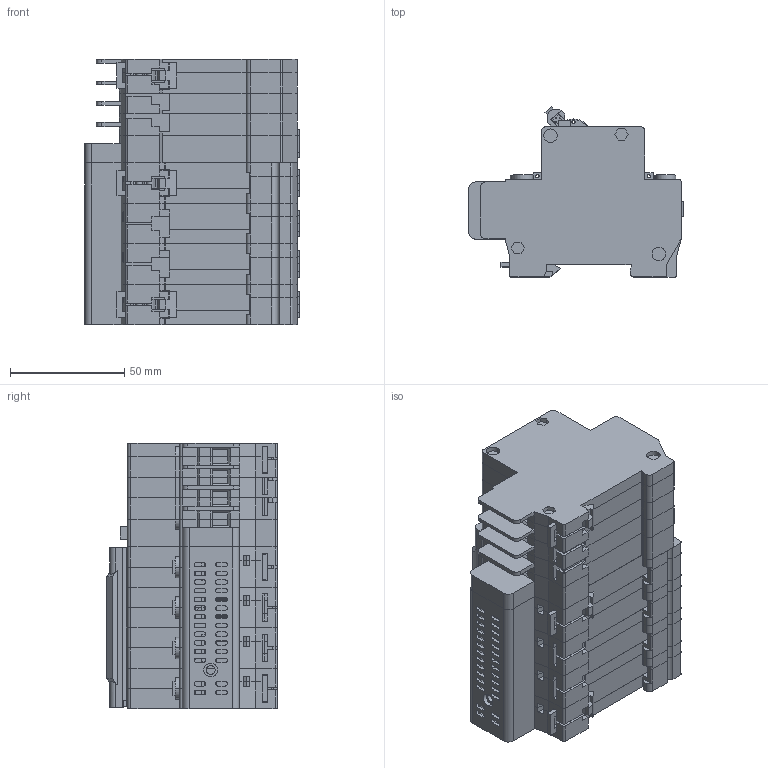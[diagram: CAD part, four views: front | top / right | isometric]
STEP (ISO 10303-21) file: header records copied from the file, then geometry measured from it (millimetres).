
FILE_DESCRIPTION (( 'STEP AP214' ), '1' );
FILE_NAME ('ﾀﾄ14 蒡 32ﾀ.STEP', '2022-11-18T10:25:20', ( '' ), ( '' ), 'SwSTEP 2.0', 'SolidWorks 2018', '' );
FILE_SCHEMA (( 'AUTOMOTIVE_DESIGN' ));
Length unit declared in the file: millimetre
Products named in the file (24): Ëåâàÿ áîêîâèíà  (ÀÄ12-14 Changan) 04.2022; 鎔艜 (斂12) 04.2022; Çàùåëêà (ÂÀ47-29 Changan) 04.2022; Êîëîäêà (ÂÀ47-29) 14.02.2022; 扱闀罻 蠈嚦 斂12 OFA 04.2022; 青汶篪赅 (吕47-29) 14.02.2022; Ñêîáà (ÂÀ47-29 OFA) 04.2022_4 ¯®«îá ; 鎔艜 (臍47-29) 14.02.2022; ÂÀ47-29 1Õ Changan 04.2022_1 ¤«ï 4; 青觌屣赅 (吕47-29 OFA) 04.2022_4 釥; Áîêîâèíà ïðàâàÿ (ÀÄ12-14 Changan) 09.2022_¤® 32€; ﾂﾀ47-29 1ﾕ Changan 04.2022_尚皚･､ｭｨｩ ｯｮｫ髜; 栫謥儰縺 (斂12-14 Changan) 04.2022; Êíîïêà âîçâðàò; ﾂﾀ47-29 1ﾕ Changan 04.2022_｡･ｧ ｧ鬣ｫｪｨ; ﾀﾄ14 蒡 32ﾀ; ﾂﾀ47-29 4ﾕ Changan 04.2022; Áîêîâèíà ëåâàÿ (ÂÀ47-29 Changan) 04.2022; Áîêîâèíà ïðàâàÿ (ÂÀ47-29 Changan) 04.2022; Ðó÷êà (ÂÀ47-29 Changan) 04.2022; Ñåðåäèíà ïåðåä êíîïêîé (ÀÄ12-14 Changan) (9.09.2022); Êðûøêà ïîä ïðîâîäà ÀÄ12-14 Changan 04.2022_4 ¯®«îá ; ﾂ鏆鮏 (ﾂﾀ47-29 OFA) 14.02.2022; ч蜱齁罻 倢昅
Assembly tree (59 placements, depth 4):
  ﾀﾄ14 蒡 32ﾀ
    Ëåâàÿ áîêîâèíà  (ÀÄ12-14 Changan) 04.2022
    Ñåðåäèíà ïåðåä êíîïêîé (ÀÄ12-14 Changan) (9.09.2022)
    Êðûøêà ïîä ïðîâîäà ÀÄ12-14 Changan 04.2022_4 ¯®«îá 
    Áîêîâèíà ïðàâàÿ (ÀÄ12-14 Changan) 09.2022_¤® 32€
    Çàùåëêà (ÂÀ47-29 Changan) 04.2022
    栫謥儰縺 (斂12-14 Changan) 04.2022  x2
    ﾂﾀ47-29 4ﾕ Changan 04.2022
      ÂÀ47-29 1Õ Changan 04.2022_1 ¤«ï 4
        Áîêîâèíà ïðàâàÿ (ÂÀ47-29 Changan) 04.2022
        Áîêîâèíà ëåâàÿ (ÂÀ47-29 Changan) 04.2022
        Çàùåëêà (ÂÀ47-29 Changan) 04.2022
        Ðó÷êà (ÂÀ47-29 Changan) 04.2022
        青觌屣赅 (吕47-29 OFA) 04.2022_4 釥  x4
        青汶篪赅 (吕47-29) 14.02.2022  x2
        鎔艜 (臍47-29) 14.02.2022  x2
        ﾂ鏆鮏 (ﾂﾀ47-29 OFA) 14.02.2022  x2
        Êîëîäêà (ÂÀ47-29) 14.02.2022  x2
      ﾂﾀ47-29 1ﾕ Changan 04.2022_｡･ｧ ｧ鬣ｫｪｨ  x2
        Áîêîâèíà ïðàâàÿ (ÂÀ47-29 Changan) 04.2022
        Áîêîâèíà ëåâàÿ (ÂÀ47-29 Changan) 04.2022
        Ðó÷êà (ÂÀ47-29 Changan) 04.2022
        青汶篪赅 (吕47-29) 14.02.2022
        鎔艜 (臍47-29) 14.02.2022
        ﾂ鏆鮏 (ﾂﾀ47-29 OFA) 14.02.2022
        Êîëîäêà (ÂÀ47-29) 14.02.2022
      ﾂﾀ47-29 1ﾕ Changan 04.2022_尚皚･､ｭｨｩ ｯｮｫ髜
        Áîêîâèíà ïðàâàÿ (ÂÀ47-29 Changan) 04.2022
        Áîêîâèíà ëåâàÿ (ÂÀ47-29 Changan) 04.2022
        Çàùåëêà (ÂÀ47-29 Changan) 04.2022
        Ðó÷êà (ÂÀ47-29 Changan) 04.2022
        青汶篪赅 (吕47-29) 14.02.2022  x2
        鎔艜 (臍47-29) 14.02.2022  x2
        ﾂ鏆鮏 (ﾂﾀ47-29 OFA) 14.02.2022  x2
        Êîëîäêà (ÂÀ47-29) 14.02.2022  x2
      Ñêîáà (ÂÀ47-29 OFA) 04.2022_4 ¯®«îá 
    扱闀罻 蠈嚦 斂12 OFA 04.2022
    ч蜱齁罻 倢昅
    鎔艜 (斂12) 04.2022  x4
    Êíîïêà âîçâðàò
Bounding box: 94 x 74.7 x 116.3 mm (x, y, z)
Volume: 430024.8 mm3; surface area: 208378.3 mm2
Topology: 65 solids, 65 shells, 4322 faces, 11737 edges, 7606 vertices
Faces by surface type: plane 3200, cylinder 1018, torus 104
Entity records: 43719 total; most frequent: CARTESIAN_POINT 7737, ORIENTED_EDGE 7392, DIRECTION 7125, EDGE_CURVE 3696, VECTOR 2929, LINE 2929, VERTEX_POINT 2422, AXIS2_PLACEMENT_3D 2098
